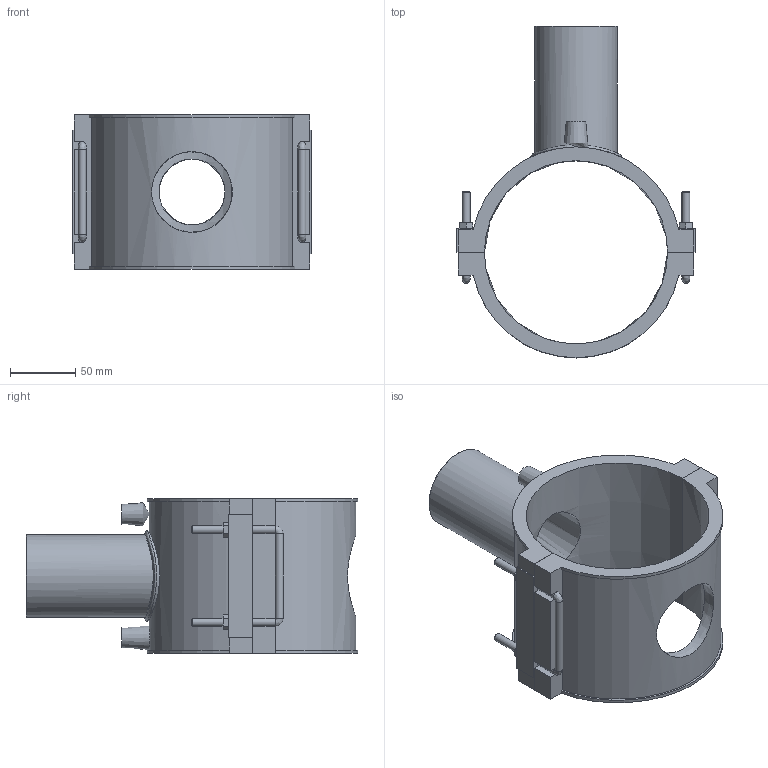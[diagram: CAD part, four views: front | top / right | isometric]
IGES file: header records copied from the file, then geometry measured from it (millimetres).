
Global section: file name: 495804140063.ipt; native system: Autodesk Inventor 2015; preprocessor: unknown; author: KIM; date: 20180426.120847; units: millimetre
Bounding box: 182 x 253.58 x 118 mm (x, y, z)
Volume: 680444.3 mm3; surface area: 175882.9 mm2
Topology: 2 solids, 2 shells, 133 faces, 340 edges, 214 vertices
Faces by surface type: plane 85, cylinder 22, revolution 10, bspline 9, cone 7
Full cylindrical faces by diameter (mm): 4 x2, 6 x10, 63 x1, 69.3 x1
